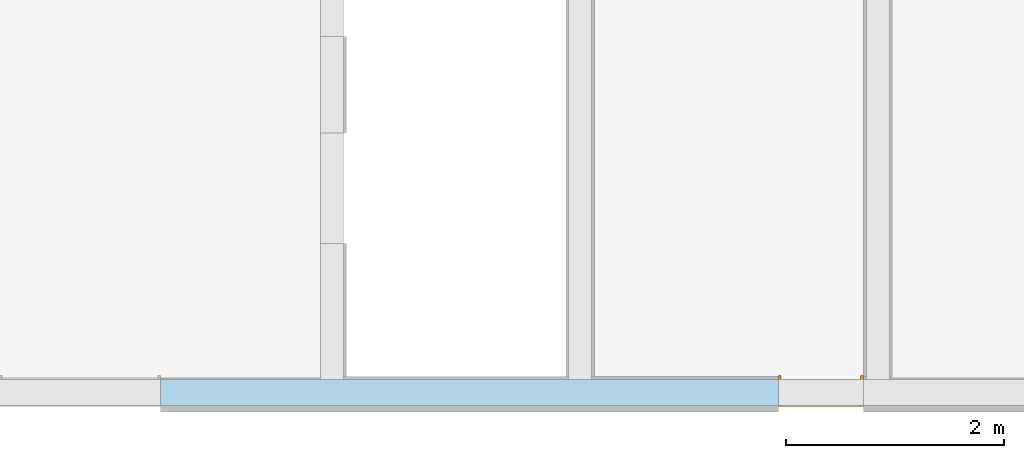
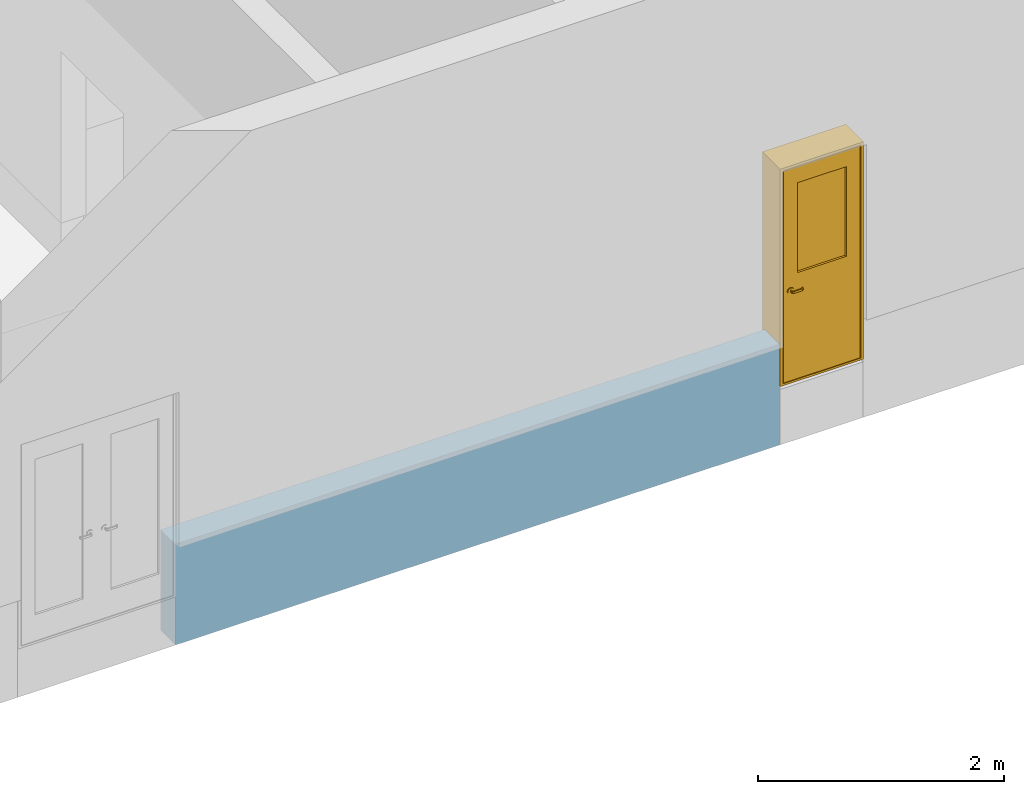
# One storey, part 21 of 22: 1 door, 2 openings, plus 1 element that does not belong to this part.
"""IFC4X3 building model written with IfcOpenShell, lengths in millimetres."""

from ifc_helpers import new_model, entity, si_unit, converted_unit, derived_unit, direction, frame, frame_2d, origin, origin_2d_with_axis, place, context, subcontext, project, spatial, rectangle, extrude, faceted_brep, source, transform, mapped, material, layer, layer_set, constituent, constituent_set, type_object, type_shapes, element, fill, save


model = new_model("IFC4X3")

# Units and contexts
model_context = context("Model", 3, precision=0.01, world=origin(), true_north=direction((6.12303176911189e-17, 1.0)))
body_context = subcontext(model_context, "Body", "Model", "MODEL_VIEW")
ifc_project = project(units=[si_unit("LENGTHUNIT", "METRE", prefix="MILLI"), si_unit("AREAUNIT", "SQUARE_METRE"), si_unit("VOLUMEUNIT", "CUBIC_METRE"), converted_unit("PLANEANGLEUNIT", "DEGREE", entity("IfcPlaneAngleMeasure", 0.0174532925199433), si_unit("PLANEANGLEUNIT", "RADIAN"), dimensions=[0, 0, 0, 0, 0, 0, 0]), si_unit("MASSUNIT", "GRAM", prefix="KILO"), derived_unit("MASSDENSITYUNIT", [(si_unit("MASSUNIT", "GRAM", prefix="KILO"), 1), (si_unit("LENGTHUNIT", "METRE"), -3)]), derived_unit("IONCONCENTRATIONUNIT", [(si_unit("MASSUNIT", "GRAM", prefix="KILO"), 1), (si_unit("LENGTHUNIT", "METRE"), -3)]), derived_unit("MOMENTOFINERTIAUNIT", [(si_unit("LENGTHUNIT", "METRE"), 4)]), si_unit("TIMEUNIT", "SECOND"), si_unit("FREQUENCYUNIT", "HERTZ"), si_unit("THERMODYNAMICTEMPERATUREUNIT", "DEGREE_CELSIUS"), derived_unit("THERMALTRANSMITTANCEUNIT", [(si_unit("MASSUNIT", "GRAM", prefix="KILO"), 1), (si_unit("THERMODYNAMICTEMPERATUREUNIT", "KELVIN"), -1), (si_unit("TIMEUNIT", "SECOND"), -3)]), derived_unit("THERMALCONDUCTANCEUNIT", [(si_unit("MASSUNIT", "GRAM", prefix="KILO"), 1), (si_unit("THERMODYNAMICTEMPERATUREUNIT", "KELVIN"), -1), (si_unit("TIMEUNIT", "SECOND"), -3), (si_unit("LENGTHUNIT", "METRE"), 1)]), derived_unit("VOLUMETRICFLOWRATEUNIT", [(si_unit("LENGTHUNIT", "METRE", prefix="DECI"), 3), (si_unit("TIMEUNIT", "SECOND"), -1)]), derived_unit("MASSFLOWRATEUNIT", [(si_unit("MASSUNIT", "GRAM", prefix="KILO"), 1), (si_unit("TIMEUNIT", "SECOND"), -1)]), derived_unit("ROTATIONALFREQUENCYUNIT", [(si_unit("TIMEUNIT", "SECOND"), -1)]), si_unit("ELECTRICCURRENTUNIT", "AMPERE"), si_unit("ELECTRICVOLTAGEUNIT", "VOLT"), si_unit("POWERUNIT", "WATT"), si_unit("FORCEUNIT", "NEWTON", prefix="KILO"), si_unit("ILLUMINANCEUNIT", "LUX"), si_unit("LUMINOUSFLUXUNIT", "LUMEN"), si_unit("LUMINOUSINTENSITYUNIT", "CANDELA"), si_unit("ENERGYUNIT", "JOULE"), derived_unit("USERDEFINED", [(si_unit("MASSUNIT", "GRAM", prefix="KILO"), -1), (si_unit("LENGTHUNIT", "METRE"), -2), (si_unit("TIMEUNIT", "SECOND"), 3), (si_unit("LUMINOUSFLUXUNIT", "LUMEN"), 1)]), derived_unit("USERDEFINED", [(si_unit("MASSUNIT", "GRAM", prefix="KILO"), 1), (si_unit("TIMEUNIT", "SECOND"), -3), (si_unit("LENGTHUNIT", "METRE"), 3), (si_unit("ELECTRICCURRENTUNIT", "AMPERE"), -2)]), derived_unit("SOUNDPOWERUNIT", [(si_unit("MASSUNIT", "GRAM", prefix="KILO"), 1), (si_unit("TIMEUNIT", "SECOND"), -3), (si_unit("LENGTHUNIT", "METRE"), 2)]), derived_unit("SOUNDPRESSUREUNIT", [(si_unit("MASSUNIT", "GRAM", prefix="KILO"), 1), (si_unit("LENGTHUNIT", "METRE"), -1), (si_unit("TIMEUNIT", "SECOND"), -2)]), derived_unit("LINEARVELOCITYUNIT", [(si_unit("LENGTHUNIT", "METRE"), 1), (si_unit("TIMEUNIT", "SECOND"), -1)]), si_unit("PRESSUREUNIT", "PASCAL"), derived_unit("USERDEFINED", [(si_unit("MASSUNIT", "GRAM", prefix="KILO"), 1), (si_unit("LENGTHUNIT", "METRE"), -2), (si_unit("TIMEUNIT", "SECOND"), -2)]), derived_unit("LINEARFORCEUNIT", [(si_unit("MASSUNIT", "GRAM", prefix="KILO"), 1), (si_unit("TIMEUNIT", "SECOND"), -2)]), derived_unit("PLANARFORCEUNIT", [(si_unit("MASSUNIT", "GRAM", prefix="KILO"), 1), (si_unit("LENGTHUNIT", "METRE"), -1), (si_unit("TIMEUNIT", "SECOND"), -2)]), derived_unit("SPECIFICHEATCAPACITYUNIT", [(si_unit("THERMODYNAMICTEMPERATUREUNIT", "KELVIN"), -1), (si_unit("LENGTHUNIT", "METRE"), 2), (si_unit("TIMEUNIT", "SECOND"), -2)]), derived_unit("HEATFLUXDENSITYUNIT", [(si_unit("MASSUNIT", "GRAM", prefix="KILO"), 1), (si_unit("TIMEUNIT", "SECOND"), -3)]), derived_unit("HEATINGVALUEUNIT", [(si_unit("LENGTHUNIT", "METRE"), 2), (si_unit("TIMEUNIT", "SECOND"), -2)]), derived_unit("VAPORPERMEABILITYUNIT", [(si_unit("LENGTHUNIT", "METRE"), -1), (si_unit("TIMEUNIT", "SECOND"), 1)]), derived_unit("DYNAMICVISCOSITYUNIT", [(si_unit("MASSUNIT", "GRAM", prefix="KILO"), 1), (si_unit("TIMEUNIT", "SECOND"), -1), (si_unit("LENGTHUNIT", "METRE"), -1)]), derived_unit("THERMALEXPANSIONCOEFFICIENTUNIT", [(si_unit("THERMODYNAMICTEMPERATUREUNIT", "KELVIN"), -1)]), derived_unit("MODULUSOFELASTICITYUNIT", [(si_unit("MASSUNIT", "GRAM", prefix="KILO"), 1), (si_unit("LENGTHUNIT", "METRE"), -1), (si_unit("TIMEUNIT", "SECOND"), -2)]), derived_unit("ISOTHERMALMOISTURECAPACITYUNIT", [(si_unit("MASSUNIT", "GRAM", prefix="KILO"), -1), (si_unit("LENGTHUNIT", "METRE"), 3)]), derived_unit("MOISTUREDIFFUSIVITYUNIT", [(si_unit("TIMEUNIT", "SECOND"), -1), (si_unit("LENGTHUNIT", "METRE"), 2)]), derived_unit("AREADENSITYUNIT", [(si_unit("MASSUNIT", "GRAM", prefix="KILO"), 1), (si_unit("LENGTHUNIT", "METRE"), 2)]), derived_unit("MASSPERLENGTHUNIT", [(si_unit("MASSUNIT", "GRAM", prefix="KILO"), 1), (si_unit("LENGTHUNIT", "METRE"), -1)]), derived_unit("THERMALRESISTANCEUNIT", [(si_unit("MASSUNIT", "GRAM", prefix="KILO"), -1), (si_unit("TIMEUNIT", "SECOND"), 3), (si_unit("THERMODYNAMICTEMPERATUREUNIT", "KELVIN"), 1)]), derived_unit("ACCELERATIONUNIT", [(si_unit("LENGTHUNIT", "METRE"), 1), (si_unit("TIMEUNIT", "SECOND"), -2)]), derived_unit("ANGULARVELOCITYUNIT", [(si_unit("TIMEUNIT", "SECOND"), -1), (si_unit("PLANEANGLEUNIT", "RADIAN"), 1)]), derived_unit("LINEARSTIFFNESSUNIT", [(si_unit("MASSUNIT", "GRAM", prefix="KILO"), 1), (si_unit("TIMEUNIT", "SECOND"), -2)]), derived_unit("WARPINGCONSTANTUNIT", [(si_unit("LENGTHUNIT", "METRE"), 6)]), derived_unit("LINEARMOMENTUNIT", [(si_unit("MASSUNIT", "GRAM", prefix="KILO"), 1), (si_unit("LENGTHUNIT", "METRE"), 1), (si_unit("TIMEUNIT", "SECOND"), -2)]), derived_unit("TORQUEUNIT", [(si_unit("MASSUNIT", "GRAM", prefix="KILO"), 1), (si_unit("LENGTHUNIT", "METRE"), 2), (si_unit("TIMEUNIT", "SECOND"), -2)])], contexts=[model_context])

# Site, building, storey
site_placement = place(None, origin())
site = spatial("IfcSite", under=ifc_project, at=site_placement, Name="Default", CompositionType="ELEMENT")
building_placement = place(site_placement, origin())
building = spatial("IfcBuilding", under=site, at=building_placement, Name="事務所ビル", CompositionType="ELEMENT")
storey_placement = place(building_placement, origin())
storey = spatial("IfcBuildingStorey", under=building, at=storey_placement, Name="1FL", CompositionType="ELEMENT", Elevation=0.0)

# Wall, openings, door
ifc_material_1 = material(Name="*コンクリート")
ifc_layer = layer(ifc_material_1, 240.0, Name="*コンクリート")
ifc_layer_set = layer_set([ifc_layer], Name="標準壁:(基礎梁)RC_w240h1000")
wall_type = type_object("IfcWallType", Name="標準壁:(基礎梁)RC_w240h1000", PredefinedType="STANDARD", material=ifc_layer_set)
wall_placement = place(storey_placement, frame((23452.0, 0.0, -600.0)))
wall = element("IfcWall", 1, at=wall_placement, inside=storey, type_object=wall_type, material=ifc_layer_set, Name="標準壁:(基礎梁)RC_w240h1000", ObjectType="標準壁:(基礎梁)RC_w240h1000", PredefinedType="NOTDEFINED", context=body_context, shape_type="SweptSolid", body=[
    extrude(rectangle(XDim=5668.0, YDim=240.0, at=frame_2d((2834.0, 0.0), x_axis=(-1.0, 0.0))), origin(), (0.0, 0.0, 1.0), 1000.0),
])
opening_1_placement = place(wall_placement, frame((-23452.0, 0.0, 500.0)))
element("IfcOpeningElement", 2, at=opening_1_placement, cuts=wall, Name="標準壁:(基礎梁)RC_w240h1000", PredefinedType="OPENING", context=body_context, shape_type="SweptSolid", body=[
    extrude(rectangle(XDim=2055.00000000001, YDim=1480.0, at=origin_2d_with_axis()), frame((22712.0, -1404.0, 1012.49999999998), z_axis=(0.0, 1.0, 0.0), x_axis=(0.0, 0.0, -1.0)), (0.0, 0.0, 1.0), 3048.0),
])
opening_2_placement = place(wall_placement, frame((6446.0, 120.0, 585.0)))
opening_2 = element("IfcOpeningElement", 3, at=opening_2_placement, cuts=wall, Name="鋼製_大枠_片開き_窓付:700x2100:1", PredefinedType="OPENING", context=body_context, shape_type="SweptSolid", body=[
    extrude(rectangle(XDim=2155.00000000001, YDim=779.999999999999, at=frame_2d((1077.5, 390.0), x_axis=(-1.0, 0.0))), frame((0.0, 0.0, 0.0), z_axis=(0.0, -1.0, 0.0), x_axis=(0.0, 0.0, 1.0)), (0.0, 0.0, 1.0), 240.0),
])
ifc_material_2 = material(Name="ステンレス", Category="未設定")
ifc_constituent_1 = constituent(ifc_material_2, Name="ステンレス", Category="未設定")
ifc_material_3 = material(Name="塗装 - 白", Category="未設定")
ifc_constituent_2 = constituent(ifc_material_3, Name="塗装 - 白", Category="未設定")
ifc_material_4 = material(Name="ガラス", Category="ガラス")
ifc_constituent_3 = constituent(ifc_material_4, Name="ガラス", Category="ガラス")
ifc_constituent_set_1 = constituent_set(constituents=[ifc_constituent_1, ifc_constituent_2, ifc_constituent_3])
ifc_constituent_4 = constituent(ifc_material_2, Name="ハンドル", Category="未設定")
ifc_constituent_5 = constituent(ifc_material_3, Name="パネル", Category="未設定")
ifc_constituent_6 = constituent(ifc_material_4, Name="ガラス", Category="ガラス")
ifc_constituent_7 = constituent(ifc_material_3, Name="フレーム/マリオン", Category="未設定")
ifc_constituent_set_2 = constituent_set(constituents=[ifc_constituent_4, ifc_constituent_5, ifc_constituent_6, ifc_constituent_7])
door_type = type_object("IfcDoorType", Name="鋼製_大枠_片開き_窓付:700x2100", OperationType="SINGLE_SWING_LEFT", ParameterTakesPrecedence=False, PredefinedType="DOOR", material=ifc_constituent_set_2)
shared_shape = source(origin(), body_context, "Body", "Brep", [
    faceted_brep([(680.0, 260.0, 910.0), (690.0, 260.0, 910.0), (690.0, 260.0, 930.0), (680.0, 260.0, 930.0), (680.0, 275.0, 910.0), (680.0, 275.0, 930.0), (580.0, 275.0, 930.0), (580.0, 270.0, 930.0), (590.0, 270.0, 930.0), (590.0, 275.0, 930.0), (591.464466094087, 278.5355339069, 930.0), (595.0, 280.0, 930.0), (675.0, 280.0, 930.0), (678.535533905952, 278.5355339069, 930.0), (690.0, 275.0, 930.0), (688.901650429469, 277.651650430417, 930.0), (687.803300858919, 280.303300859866, 930.0), (686.704951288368, 282.954951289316, 930.0), (685.606601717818, 285.606601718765, 930.0), (682.295473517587, 286.978115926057, 930.0), (678.984345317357, 288.349630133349, 930.0), (675.0, 290.0, 930.0), (595.0, 290.0, 930.0), (592.34834957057, 288.901650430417, 930.0), (589.696699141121, 287.803300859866, 930.0), (587.045048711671, 286.704951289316, 930.0), (584.393398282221, 285.606601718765, 930.0), (583.02188407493, 282.295473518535, 930.0), (581.650369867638, 278.984345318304, 930.0), (690.0, 275.0, 910.0), (678.535533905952, 278.5355339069, 910.0), (675.0, 280.0, 910.0), (595.0, 280.0, 910.0), (591.464466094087, 278.5355339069, 910.0), (590.0, 275.0, 910.0), (590.0, 270.0, 910.0), (580.0, 270.0, 910.0), (580.0, 275.0, 910.0), (581.09834957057, 277.651650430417, 910.0), (582.19669914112, 280.303300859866, 910.0), (583.295048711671, 282.954951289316, 910.0), (584.393398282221, 285.606601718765, 910.0), (587.045048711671, 286.704951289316, 910.0), (589.696699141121, 287.803300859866, 910.0), (593.007827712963, 289.174815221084, 910.0), (595.0, 290.0, 910.0), (675.0, 290.0, 910.0), (677.651650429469, 288.901650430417, 910.0), (680.303300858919, 287.803300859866, 910.0), (682.954951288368, 286.704951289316, 910.0), (685.606601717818, 285.606601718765, 910.0), (686.704951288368, 282.954951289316, 910.0), (687.803300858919, 280.303300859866, 910.0), (689.174815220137, 276.992172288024, 910.0)], [[[0, 1, 2, 3]], [[4, 0, 3, 5]], [[6, 7, 8, 9, 10, 11, 12, 13, 5, 3, 2, 14, 15, 16, 17, 18, 19, 20, 21, 22, 23, 24, 25, 26, 27, 28]], [[14, 2, 1, 29]], [[29, 1, 0, 4, 30, 31, 32, 33, 34, 35, 36, 37, 38, 39, 40, 41, 42, 43, 44, 45, 46, 47, 48, 49, 50, 51, 52, 53]], [[4, 5, 13, 30]], [[13, 12, 31, 30]], [[15, 14, 29, 53, 52, 51, 50, 18, 17, 16]], [[49, 48, 47, 46, 21, 20, 19, 18, 50]], [[32, 31, 12, 11]], [[45, 22, 21, 46]], [[32, 11, 10, 33]], [[10, 9, 34, 33]], [[23, 22, 45, 44, 43, 42, 41, 26, 25, 24]], [[40, 39, 38, 37, 6, 28, 27, 26, 41]], [[35, 8, 7, 36]], [[35, 34, 9, 8]], [[7, 6, 37, 36]]]),
    faceted_brep([(670.0, 260.0, 945.980762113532), (677.235428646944, 260.0, 948.977774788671), (685.0, 260.0, 950.0), (692.764571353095, 260.0, 948.977774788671), (700.0, 260.0, 945.980762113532), (706.213203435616, 260.0, 941.213203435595), (710.980762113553, 260.0, 935.0), (713.977774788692, 260.0, 927.764571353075), (715.0, 260.0, 920.0), (713.977774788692, 260.0, 912.235428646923), (710.980762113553, 260.0, 905.0), (706.213203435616, 260.0, 898.786796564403), (700.0, 260.0, 894.019237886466), (692.764571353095, 260.0, 891.022225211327), (685.0, 260.0, 890.0), (677.235428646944, 260.0, 891.022225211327), (670.0, 260.0, 894.019237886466), (663.786796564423, 260.0, 898.786796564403), (659.019237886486, 260.0, 905.0), (656.022225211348, 260.0, 912.235428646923), (655.0, 260.0, 920.0), (656.022225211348, 260.0, 927.764571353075), (659.019237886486, 260.0, 935.0), (663.786796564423, 260.0, 941.213203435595), (677.235428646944, 250.0, 891.022225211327), (685.0, 250.0, 890.0), (692.764571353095, 250.0, 891.022225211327), (700.0, 250.0, 894.019237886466), (706.213203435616, 250.0, 898.786796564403), (710.980762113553, 250.0, 905.0), (713.977774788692, 250.0, 912.235428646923), (715.0, 250.0, 920.0), (713.977774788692, 250.0, 927.764571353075), (710.980762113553, 250.0, 935.0), (706.213203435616, 250.0, 941.213203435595), (700.0, 250.0, 945.980762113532), (692.764571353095, 250.0, 948.977774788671), (685.0, 250.0, 950.0), (677.235428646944, 250.0, 948.977774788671), (670.0, 250.0, 945.980762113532), (663.786796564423, 250.0, 941.213203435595), (659.019237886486, 250.0, 935.0), (656.022225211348, 250.0, 927.764571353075), (655.0, 250.0, 920.0), (656.022225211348, 250.0, 912.235428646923), (659.019237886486, 250.0, 905.0), (663.786796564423, 250.0, 898.786796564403), (670.0, 250.0, 894.019237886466)], [[[0, 1, 2, 3, 4, 5, 6, 7, 8, 9, 10, 11, 12, 13, 14, 15, 16, 17, 18, 19, 20, 21, 22, 23]], [[24, 25, 26, 27, 28, 29, 30, 31, 32, 33, 34, 35, 36, 37, 38, 39, 40, 41, 42, 43, 44, 45, 46, 47]], [[31, 8, 7, 32]], [[32, 7, 6, 33]], [[35, 34, 5, 4]], [[5, 34, 33, 6]], [[36, 35, 4, 3]], [[36, 3, 2, 37]], [[37, 2, 1, 38]], [[38, 1, 0, 39]], [[41, 40, 23, 22]], [[23, 40, 39, 0]], [[42, 41, 22, 21]], [[42, 21, 20, 43]], [[43, 20, 19, 44]], [[44, 19, 18, 45]], [[47, 46, 17, 16]], [[17, 46, 45, 18]], [[24, 47, 16, 15]], [[24, 15, 14, 25]], [[25, 14, 13, 26]], [[26, 13, 12, 27]], [[29, 28, 11, 10]], [[11, 28, 27, 12]], [[30, 29, 10, 9]], [[30, 9, 8, 31]]]),
    faceted_brep([(680.0, 200.0, 930.0), (690.0, 200.0, 930.0), (690.0, 200.0, 910.0), (680.0, 200.0, 910.0), (580.0, 185.0, 910.0), (580.0, 190.0, 910.0), (590.0, 190.0, 910.0), (590.0, 185.0, 910.0), (591.464466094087, 181.464466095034, 910.0), (595.0, 180.0, 910.0), (675.0, 180.0, 910.0), (678.535533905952, 181.464466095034, 910.0), (680.0, 185.0, 910.0), (690.0, 185.0, 910.0), (688.901650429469, 182.348349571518, 910.0), (687.803300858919, 179.696699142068, 910.0), (686.704951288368, 177.045048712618, 910.0), (685.606601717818, 174.393398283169, 910.0), (682.295473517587, 173.021884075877, 910.0), (678.984345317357, 171.650369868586, 910.0), (675.0, 170.0, 910.0), (595.0, 170.0, 910.0), (592.34834957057, 171.098349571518, 910.0), (589.69669914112, 172.196699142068, 910.0), (587.045048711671, 173.295048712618, 910.0), (584.393398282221, 174.393398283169, 910.0), (583.02188407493, 177.7045264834, 910.0), (581.650369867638, 181.01565468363, 910.0), (690.0, 185.0, 930.0), (680.0, 185.0, 930.0), (678.535533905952, 181.464466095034, 930.0), (675.0, 180.0, 930.0), (595.0, 180.0, 930.0), (591.464466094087, 181.464466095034, 930.0), (590.0, 185.0, 930.0), (590.0, 190.0, 930.0), (580.0, 190.0, 930.0), (580.0, 185.0, 930.0), (581.09834957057, 182.348349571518, 930.0), (582.19669914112, 179.696699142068, 930.0), (583.295048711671, 177.045048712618, 930.0), (584.393398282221, 174.393398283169, 930.0), (587.045048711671, 173.295048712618, 930.0), (589.69669914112, 172.196699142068, 930.0), (593.007827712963, 170.82518478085, 930.0), (595.0, 170.0, 930.0), (675.0, 170.0, 930.0), (677.651650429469, 171.098349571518, 930.0), (680.303300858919, 172.196699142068, 930.0), (682.954951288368, 173.295048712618, 930.0), (685.606601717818, 174.393398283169, 930.0), (686.704951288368, 177.045048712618, 930.0), (687.803300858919, 179.696699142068, 930.0), (689.174815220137, 183.00782771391, 930.0)], [[[0, 1, 2, 3]], [[4, 5, 6, 7, 8, 9, 10, 11, 12, 3, 2, 13, 14, 15, 16, 17, 18, 19, 20, 21, 22, 23, 24, 25, 26, 27]], [[13, 2, 1, 28]], [[28, 1, 0, 29, 30, 31, 32, 33, 34, 35, 36, 37, 38, 39, 40, 41, 42, 43, 44, 45, 46, 47, 48, 49, 50, 51, 52, 53]], [[12, 29, 0, 3]], [[14, 13, 28, 53, 52, 51, 50, 17, 16, 15]], [[49, 48, 47, 46, 20, 19, 18, 17, 50]], [[29, 12, 11, 30]], [[11, 10, 31, 30]], [[21, 20, 46, 45]], [[32, 31, 10, 9]], [[22, 21, 45, 44, 43, 42, 41, 25, 24, 23]], [[40, 39, 38, 37, 4, 27, 26, 25, 41]], [[32, 9, 8, 33]], [[8, 7, 34, 33]], [[35, 6, 5, 36]], [[5, 4, 37, 36]], [[35, 34, 7, 6]]]),
    faceted_brep([(670.0, 200.0, 894.019237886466), (677.235428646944, 200.0, 891.022225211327), (685.0, 200.0, 890.0), (692.764571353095, 200.0, 891.022225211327), (700.0, 200.0, 894.019237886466), (706.213203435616, 200.0, 898.786796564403), (710.980762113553, 200.0, 905.0), (713.977774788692, 200.0, 912.235428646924), (715.0, 200.0, 920.0), (713.977774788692, 200.0, 927.764571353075), (710.980762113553, 200.0, 935.0), (706.213203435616, 200.0, 941.213203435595), (700.0, 200.0, 945.980762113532), (692.764571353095, 200.0, 948.977774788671), (685.0, 200.0, 950.0), (677.235428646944, 200.0, 948.977774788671), (670.0, 200.0, 945.980762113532), (663.786796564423, 200.0, 941.213203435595), (659.019237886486, 200.0, 935.0), (656.022225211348, 200.0, 927.764571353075), (655.0, 200.0, 920.0), (656.022225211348, 200.0, 912.235428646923), (659.019237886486, 200.0, 905.0), (663.786796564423, 200.0, 898.786796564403), (677.235428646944, 210.0, 948.977774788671), (685.0, 210.0, 950.0), (692.764571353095, 210.0, 948.977774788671), (700.0, 210.0, 945.980762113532), (706.213203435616, 210.0, 941.213203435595), (710.980762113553, 210.0, 935.0), (713.977774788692, 210.0, 927.764571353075), (715.0, 210.0, 920.0), (713.977774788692, 210.0, 912.235428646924), (710.980762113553, 210.0, 905.0), (706.213203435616, 210.0, 898.786796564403), (700.0, 210.0, 894.019237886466), (692.764571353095, 210.0, 891.022225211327), (685.0, 210.0, 890.0), (677.235428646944, 210.0, 891.022225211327), (670.0, 210.0, 894.019237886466), (663.786796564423, 210.0, 898.786796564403), (659.019237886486, 210.0, 905.0), (656.022225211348, 210.0, 912.235428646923), (655.0, 210.0, 920.0), (656.022225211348, 210.0, 927.764571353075), (659.019237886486, 210.0, 935.0), (663.786796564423, 210.0, 941.213203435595), (670.0, 210.0, 945.980762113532)], [[[0, 1, 2, 3, 4, 5, 6, 7, 8, 9, 10, 11, 12, 13, 14, 15, 16, 17, 18, 19, 20, 21, 22, 23]], [[24, 25, 26, 27, 28, 29, 30, 31, 32, 33, 34, 35, 36, 37, 38, 39, 40, 41, 42, 43, 44, 45, 46, 47]], [[31, 8, 7, 32]], [[32, 7, 6, 33]], [[35, 34, 5, 4]], [[5, 34, 33, 6]], [[36, 35, 4, 3]], [[36, 3, 2, 37]], [[37, 2, 1, 38]], [[38, 1, 0, 39]], [[41, 40, 23, 22]], [[23, 40, 39, 0]], [[42, 41, 22, 21]], [[42, 21, 20, 43]], [[43, 20, 19, 44]], [[44, 19, 18, 45]], [[47, 46, 17, 16]], [[17, 46, 45, 18]], [[24, 47, 16, 15]], [[24, 15, 14, 25]], [[25, 14, 13, 26]], [[26, 13, 12, 27]], [[29, 28, 11, 10]], [[11, 28, 27, 12]], [[30, 29, 10, 9]], [[30, 9, 8, 31]]]),
    faceted_brep([(150.0, 210.0, 1065.0), (630.0, 210.0, 1065.0), (630.0, 210.0, 1975.0), (150.0, 210.0, 1975.0), (160.0, 210.0, 1075.0), (160.0, 210.0, 1965.0), (620.0, 210.0, 1965.0), (620.0, 210.0, 1075.0), (150.0, 250.0, 1065.0), (150.0, 250.0, 1975.0), (630.0, 250.0, 1975.0), (630.0, 250.0, 1065.0), (160.0, 250.0, 1075.0), (620.0, 250.0, 1075.0), (620.0, 250.0, 1965.0), (160.0, 250.0, 1965.0)], [[[0, 1, 2, 3], [4, 5, 6, 7]], [[8, 9, 10, 11], [12, 13, 14, 15]], [[3, 9, 8, 0]], [[2, 10, 9, 3]], [[1, 11, 10, 2]], [[0, 8, 11, 1]], [[7, 13, 12, 4]], [[6, 14, 13, 7]], [[5, 15, 14, 6]], [[4, 12, 15, 5]]]),
    faceted_brep([(150.0, 225.0, 1065.0), (630.0, 225.0, 1065.0), (630.0, 225.0, 1975.0), (150.0, 225.0, 1975.0), (150.0, 230.0, 1065.0), (150.0, 230.0, 1975.0), (630.0, 230.0, 1975.0), (630.0, 230.0, 1065.0)], [[[0, 1, 2, 3]], [[4, 5, 6, 7]], [[3, 5, 4, 0]], [[2, 6, 5, 3]], [[1, 7, 6, 2]], [[0, 4, 7, 1]]]),
    faceted_brep([(30.0, 210.0, 25.0), (750.0, 210.0, 25.0), (750.0, 210.0, 2125.0), (30.0, 210.0, 2125.0), (150.0, 210.0, 1065.0), (150.0, 210.0, 1975.0), (630.0, 210.0, 1975.0), (630.0, 210.0, 1065.0), (30.0, 250.0, 25.0), (30.0, 250.0, 2125.0), (750.0, 250.0, 2125.0), (750.0, 250.0, 25.0), (150.0, 250.0, 1065.0), (630.0, 250.0, 1065.0), (630.0, 250.0, 1975.0), (150.0, 250.0, 1975.0)], [[[0, 1, 2, 3], [4, 5, 6, 7]], [[8, 9, 10, 11], [12, 13, 14, 15]], [[3, 9, 8, 0]], [[2, 10, 9, 3]], [[1, 11, 10, 2]], [[0, 8, 11, 1]], [[7, 13, 12, 4]], [[6, 14, 13, 7]], [[5, 15, 14, 6]], [[4, 12, 15, 5]]]),
    faceted_brep([(25.0, 250.0, 20.0), (25.0, 250.0, 0.0), (25.0, 150.0, 0.0), (25.0, 150.0, 20.0), (25.0, 175.0, 30.0), (25.0, 205.0, 30.0), (25.0, 205.0, 20.0), (755.0, 250.0, 20.0), (755.0, 205.0, 20.0), (755.0, 205.0, 30.0), (755.0, 175.0, 30.0), (755.0, 150.0, 20.0), (755.0, 150.0, 0.0), (755.0, 250.0, 0.0)], [[[0, 1, 2, 3, 4, 5, 6]], [[7, 8, 9, 10, 11, 12, 13]], [[6, 8, 7, 0]], [[5, 9, 8, 6]], [[4, 10, 9, 5]], [[3, 11, 10, 4]], [[2, 12, 11, 3]], [[1, 13, 12, 2]], [[0, 7, 13, 1]]]),
    faceted_brep([(755.0, 250.0, 0.0), (780.0, 250.0, 0.0), (780.0, -37.0, 0.0), (755.0, -37.0, 0.0), (755.0, 175.0, 0.0), (740.0, 175.0, 0.0), (740.0, 205.0, 0.0), (755.0, 205.0, 0.0), (755.0, 205.0, 2130.0), (755.0, 250.0, 2130.0), (740.0, 205.0, 2115.0), (40.0, 205.0, 2115.0), (40.0, 205.0, 0.0), (25.0, 205.0, 0.0), (25.0, 205.0, 2130.0), (740.0, 175.0, 2115.0), (755.0, 175.0, 2130.0), (25.0, 175.0, 2130.0), (25.0, 175.0, 0.0), (40.0, 175.0, 0.0), (40.0, 175.0, 2115.0), (755.0, -37.0, 2130.0), (780.0, -37.0, 2155.0), (0.0, -37.0, 2155.0), (0.0, -37.0, 0.0), (25.0, -37.0, 0.0), (25.0, -37.0, 2130.0), (780.0, 250.0, 2155.0), (25.0, 250.0, 2130.0), (25.0, 250.0, 0.0), (0.0, 250.0, 0.0), (0.0, 250.0, 2155.0)], [[[0, 1, 2, 3, 4, 5, 6, 7]], [[7, 8, 9, 0]], [[6, 10, 11, 12, 13, 14, 8, 7]], [[5, 15, 10, 6]], [[4, 16, 17, 18, 19, 20, 15, 5]], [[3, 21, 16, 4]], [[2, 22, 23, 24, 25, 26, 21, 3]], [[1, 27, 22, 2]], [[0, 9, 28, 29, 30, 31, 27, 1]], [[8, 14, 28, 9]], [[15, 20, 11, 10]], [[21, 26, 17, 16]], [[27, 31, 23, 22]], [[29, 13, 12, 19, 18, 25, 24, 30]], [[14, 13, 29, 28]], [[20, 19, 12, 11]], [[26, 25, 18, 17]], [[31, 30, 24, 23]]]),
])
type_shapes(door_type, [shared_shape])
door_placement = place(opening_2_placement, frame((0.0, 0.0, 0.0), z_axis=(0.0, 0.0, 1.0), x_axis=(-1.0, 0.0, 0.0)))
door = element("IfcDoor", 4, at=door_placement, inside=storey, type_object=door_type, material=ifc_constituent_set_1, Name="鋼製_大枠_片開き_窓付:700x2100", ObjectType="鋼製_大枠_片開き_窓付:700x2100", OperationType="SINGLE_SWING_LEFT", OverallHeight=2155.00000000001, OverallWidth=780.0, PredefinedType="DOOR", context=body_context, shape_type="MappedRepresentation", body=[
    mapped(shared_shape, transform((0.0, 0.0, 0.0), scale=1.0)),
])
fill(opening_2, door)

save(model, "model.ifc")
